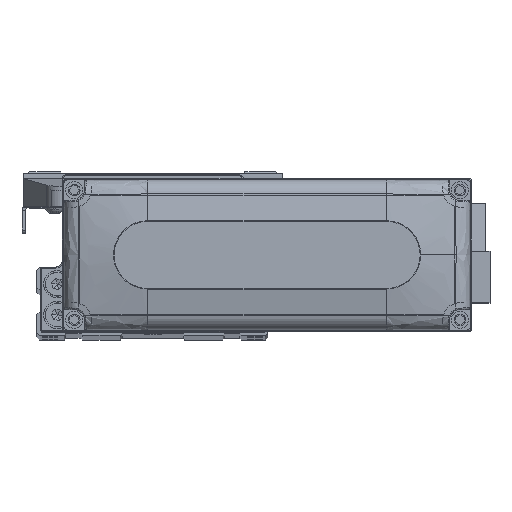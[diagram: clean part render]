
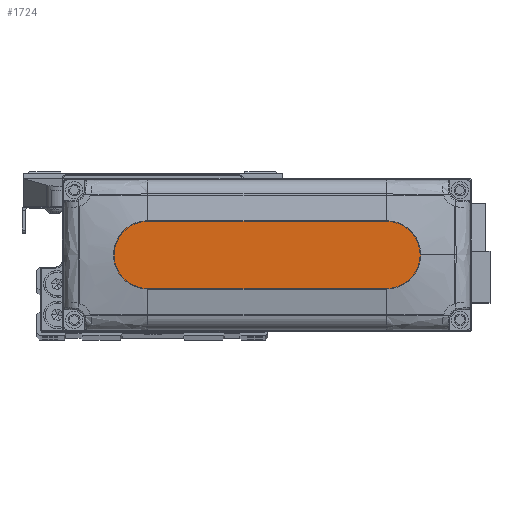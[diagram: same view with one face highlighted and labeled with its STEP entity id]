
A CAD part, top view. The second image highlights one B-rep face of the part: STEP entity #1724.
In plain terms, the highlighted planar face has unit normal (0, 0, 1).
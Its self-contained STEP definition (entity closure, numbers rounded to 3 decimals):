
#320 = CARTESIAN_POINT ( 'NONE',  ( -35., 0., 28. ) ) ;
#1054 = AXIS2_PLACEMENT_3D ( 'NONE', #320, #14632, #28926 ) ;
#1724 = ADVANCED_FACE ( 'NONE', ( #20738 ), #35049, .T. ) ;
#2297 = LINE ( 'NONE', #16610, #35068 ) ;
#2903 = CARTESIAN_POINT ( 'NONE',  ( 0., 0., 28. ) ) ;
#3410 = CIRCLE ( 'NONE', #29604, 10. ) ;
#4678 = DIRECTION ( 'NONE',  ( 1., 0., 0. ) ) ;
#4757 = ORIENTED_EDGE ( 'NONE', *, *, #38754, .T. ) ;
#6971 = CARTESIAN_POINT ( 'NONE',  ( -35., 10., 28. ) ) ;
#8547 = EDGE_CURVE ( 'NONE', #12019, #31459, #39129, .T. ) ;
#8825 = VECTOR ( 'NONE', #21299, 1000. ) ;
#9313 = CARTESIAN_POINT ( 'NONE',  ( -35., 10., 28. ) ) ;
#11078 = CARTESIAN_POINT ( 'NONE',  ( 35., 0., 28. ) ) ;
#11331 = ORIENTED_EDGE ( 'NONE', *, *, #36884, .T. ) ;
#11627 = ORIENTED_EDGE ( 'NONE', *, *, #31023, .T. ) ;
#12019 = VERTEX_POINT ( 'NONE', #21129 ) ;
#12602 = EDGE_LOOP ( 'NONE', ( #20258, #11627, #14277, #11331, #4757 ) ) ;
#13937 = VERTEX_POINT ( 'NONE', #43834 ) ;
#14277 = ORIENTED_EDGE ( 'NONE', *, *, #38906, .T. ) ;
#14632 = DIRECTION ( 'NONE',  ( 0., 0., 1. ) ) ;
#16610 = CARTESIAN_POINT ( 'NONE',  ( -35., -10., 28. ) ) ;
#17211 = DIRECTION ( 'NONE',  ( 0., 0., 1. ) ) ;
#20258 = ORIENTED_EDGE ( 'NONE', *, *, #8547, .T. ) ;
#20738 = FACE_OUTER_BOUND ( 'NONE', #12602, .T. ) ;
#21129 = CARTESIAN_POINT ( 'NONE',  ( 35., 10., 28. ) ) ;
#21287 = CIRCLE ( 'NONE', #1054, 10. ) ;
#21299 = DIRECTION ( 'NONE',  ( -1., 0., 0. ) ) ;
#21579 = AXIS2_PLACEMENT_3D ( 'NONE', #22495, #36817, #4678 ) ;
#22495 = CARTESIAN_POINT ( 'NONE',  ( 35., 0., 28. ) ) ;
#24301 = VERTEX_POINT ( 'NONE', #33717 ) ;
#25369 = DIRECTION ( 'NONE',  ( 0., 0., 1. ) ) ;
#27818 = CARTESIAN_POINT ( 'NONE',  ( 35., -10., 28. ) ) ;
#28926 = DIRECTION ( 'NONE',  ( 1., 0., 0. ) ) ;
#29604 = AXIS2_PLACEMENT_3D ( 'NONE', #11078, #25369, #39690 ) ;
#30919 = DIRECTION ( 'NONE',  ( 1., 0., 0. ) ) ;
#31023 = EDGE_CURVE ( 'NONE', #31459, #13937, #21287, .T. ) ;
#31459 = VERTEX_POINT ( 'NONE', #9313 ) ;
#31514 = DIRECTION ( 'NONE',  ( 1., 0., 0. ) ) ;
#31530 = VERTEX_POINT ( 'NONE', #27818 ) ;
#33717 = CARTESIAN_POINT ( 'NONE',  ( 45., 0., 28. ) ) ;
#35049 = PLANE ( 'NONE',  #40696 ) ;
#35068 = VECTOR ( 'NONE', #30919, 1000. ) ;
#36817 = DIRECTION ( 'NONE',  ( 0., 0., 1. ) ) ;
#36884 = EDGE_CURVE ( 'NONE', #31530, #24301, #3410, .T. ) ;
#38754 = EDGE_CURVE ( 'NONE', #24301, #12019, #41816, .T. ) ;
#38906 = EDGE_CURVE ( 'NONE', #13937, #31530, #2297, .T. ) ;
#39129 = LINE ( 'NONE', #6971, #8825 ) ;
#39690 = DIRECTION ( 'NONE',  ( 1., 0., 0. ) ) ;
#40696 = AXIS2_PLACEMENT_3D ( 'NONE', #2903, #17211, #31514 ) ;
#41816 = CIRCLE ( 'NONE', #21579, 10. ) ;
#43834 = CARTESIAN_POINT ( 'NONE',  ( -35., -10., 28. ) ) ;
